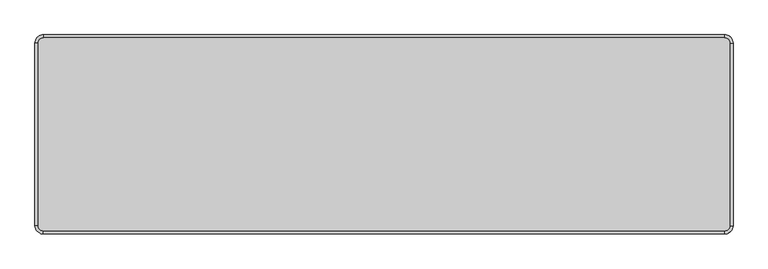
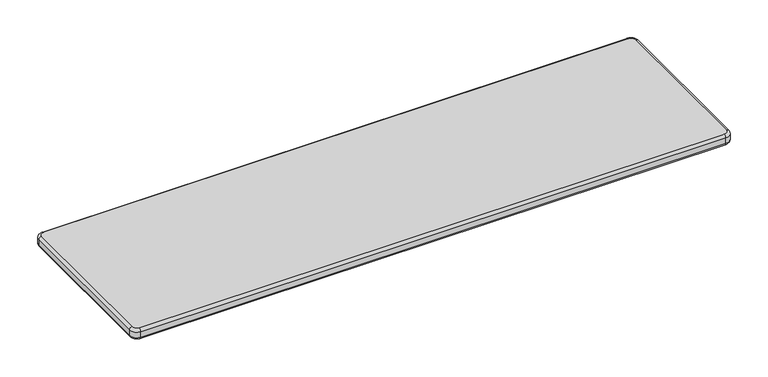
"""IFC4 building model written with IfcOpenShell, lengths in millimetres: furniture geometry, SSL-Childcraft_Outdoor-Bench : 2161361."""

import ifcopenshell
import ifcopenshell.guid

model = None  # the IFC model being written
_history = None  # IfcOwnerHistory: only IFC2X3 demands one
_inside = {}  # id of a spatial element -> (the spatial element, [elements in it])
_under = {}  # id of a project, library or spatial element -> (it, [spatial elements below it])
_declared = {}  # id of a project -> (the project, [libraries it declares])
_typed = {}  # id of a type object -> (the type object, [elements of that type])
_made_of = {}  # id of a material, layer set ... -> (it, [elements and type objects made of it])


def new_model(schema):
    """Start an empty IFC model of exactly this schema.

    Asked for "IFC4X3", IfcOpenShell would pick the latest addendum, in which some entities
    have other attributes; the version numbers below select the first issue.
    IFC2X3 requires an IfcOwnerHistory on every rooted entity: one is made here for all.
    """
    global model, _history
    if schema == "IFC4X3":
        model = ifcopenshell.file(schema_version=(4, 3, 0, 0))
    else:
        model = ifcopenshell.file(schema=schema)
    _inside.clear()
    _under.clear()
    _declared.clear()
    _typed.clear()
    _made_of.clear()
    _history = None
    if model.schema == "IFC2X3":
        org = make("IfcOrganization", Name="unknown")
        user = make(
            "IfcPersonAndOrganization",
            ThePerson=make("IfcPerson", FamilyName="unknown"),
            TheOrganization=org,
        )
        app = make(
            "IfcApplication",
            ApplicationDeveloper=org,
            Version="unknown",
            ApplicationFullName="unknown",
            ApplicationIdentifier="unknown",
        )
        _history = make(
            "IfcOwnerHistory",
            OwningUser=user,
            OwningApplication=app,
            ChangeAction="ADDED",
            CreationDate=0,
        )
    return model


def make(cls, **values):
    """One entity of the class cls with the attributes given. An attribute that is None is left unset."""
    return model.create_entity(
        cls, **{name: value for name, value in values.items() if value is not None}
    )


def rooted(cls, **values):
    """An entity with a GlobalId (a new one), such as an element, a storey or a relation."""
    return make(cls, GlobalId=ifcopenshell.guid.new(), OwnerHistory=_history, **values)


def si_unit(unit_type, name, prefix=None):
    """IfcSIUnit, for example si_unit("LENGTHUNIT", "METRE", prefix="MILLI")."""
    return make("IfcSIUnit", UnitType=unit_type, Prefix=prefix, Name=name)


def assignment(units):
    """IfcUnitAssignment: the units of a project."""
    return None if units is None else make("IfcUnitAssignment", Units=units)


def point(xyz):
    """IfcCartesianPoint."""
    return None if xyz is None else make("IfcCartesianPoint", Coordinates=xyz)


def direction(xyz):
    """IfcDirection."""
    return None if xyz is None else make("IfcDirection", DirectionRatios=xyz)


def frame(location, z_axis=None, x_axis=None):
    """IfcAxis2Placement3D, a coordinate frame: its origin and axes. An axis left out is left unset."""
    return make(
        "IfcAxis2Placement3D",
        Location=point(location),
        Axis=direction(z_axis),
        RefDirection=direction(x_axis),
    )


def origin():
    """The frame at (0, 0, 0) with its axes left unset."""
    return frame((0.0, 0.0, 0.0))


def place(relative_to, where):
    """IfcLocalPlacement: puts the frame where relative to a parent placement (None: the world)."""
    return make(
        "IfcLocalPlacement", PlacementRelTo=relative_to, RelativePlacement=where
    )


def context(
    kind, dimensions, precision=None, world=None, true_north=None, identifier=None
):
    """IfcGeometricRepresentationContext, for example the 3D "Model" context."""
    return make(
        "IfcGeometricRepresentationContext",
        ContextIdentifier=identifier,
        ContextType=kind,
        CoordinateSpaceDimension=dimensions,
        Precision=precision,
        WorldCoordinateSystem=world,
        TrueNorth=true_north,
    )


def project(units=None, contexts=None):
    """IfcProject with its units and contexts."""
    return rooted(
        "IfcProject",
        Name="project",
        RepresentationContexts=contexts,
        UnitsInContext=assignment(units),
    )


def spatial(cls, under=None, at=None, **own):
    """A site, building, storey or space (cls), placed at a placement, below another one or the project."""
    s = rooted(cls, ObjectPlacement=at, **own)
    if under is not None:
        _under.setdefault(under.id(), (under, []))[1].append(s)
    return s


def circle_curve(where, radius):
    """IfcCircle in the frame where."""
    return make("IfcCircle", Position=where, Radius=radius)


def ellipse_curve(where, semi_axis1, semi_axis2):
    """IfcEllipse in the frame where."""
    return make(
        "IfcEllipse", Position=where, SemiAxis1=semi_axis1, SemiAxis2=semi_axis2
    )


def trimmed(basis, trim1, trim2, sense, master):
    """IfcTrimmedCurve: the piece of a basis curve between two trims."""
    return make(
        "IfcTrimmedCurve",
        BasisCurve=basis,
        Trim1=trim1,
        Trim2=trim2,
        SenseAgreement=sense,
        MasterRepresentation=master,
    )


def shape(context_of_items, identifier, shape_type, items):
    """IfcShapeRepresentation: the items that make up one representation, for example the "Body"."""
    return make(
        "IfcShapeRepresentation",
        ContextOfItems=context_of_items,
        RepresentationIdentifier=identifier,
        RepresentationType=shape_type,
        Items=items,
    )


def source(mapping_origin, context_of_items, identifier, shape_type, items):
    """IfcRepresentationMap: a shape defined once, which mapped items show again and again."""
    return make(
        "IfcRepresentationMap",
        MappingOrigin=mapping_origin,
        MappedRepresentation=shape(context_of_items, identifier, shape_type, items),
    )


def transform(
    local_origin,
    x_axis=None,
    y_axis=None,
    z_axis=None,
    scale=None,
    scale2=None,
    scale3=None,
    uniform=True,
):
    """IfcCartesianTransformationOperator3D, or its non-uniform kind. x_axis, y_axis, z_axis: its Axis1, 2, 3."""
    if uniform:
        return make(
            "IfcCartesianTransformationOperator3D",
            Axis1=direction(x_axis),
            Axis2=direction(y_axis),
            LocalOrigin=point(local_origin),
            Scale=scale,
            Axis3=direction(z_axis),
        )
    return make(
        "IfcCartesianTransformationOperator3DnonUniform",
        Axis1=direction(x_axis),
        Axis2=direction(y_axis),
        LocalOrigin=point(local_origin),
        Scale=scale,
        Axis3=direction(z_axis),
        Scale2=scale2,
        Scale3=scale3,
    )


def mapped(mapping_source, mapping_target):
    """IfcMappedItem: shows the shape of a source again, moved by a transform."""
    return make(
        "IfcMappedItem", MappingSource=mapping_source, MappingTarget=mapping_target
    )


def made_of(thing, what):
    """Note that an element or type object is made of a material, layer set ...; save() writes the relation."""
    if what is not None:
        _made_of.setdefault(what.id(), (what, []))[1].append(thing)
    return thing


def element(
    cls,
    number,
    at=None,
    inside=None,
    cuts=None,
    type_object=None,
    material=None,
    context=None,
    identifier="Body",
    shape_type=None,
    held_by="IfcProductDefinitionShape",
    body=None,
    shapes=None,
    **own,
):
    """One element of the class cls, such as IfcWall. Its Tag is "e" and its number.

    at: its placement. inside: the storey or other place that contains it. cuts: it is an
    opening in that element (IfcRelVoidsElement). A single representation is given by context,
    identifier, shape_type and body (its items); several are given by shapes. held_by: the class
    of the entity that holds the representations. save() writes the other relations.
    """
    e = rooted(cls, Tag="e%d" % number, ObjectPlacement=at, **own)
    if body is not None:
        shapes = [shape(context, identifier, shape_type, body)]
    if shapes is not None:
        e.Representation = make(held_by, Representations=shapes)
    if inside is not None:
        _inside.setdefault(inside.id(), (inside, []))[1].append(e)
    if cuts is not None:
        rooted(
            "IfcRelVoidsElement", RelatingBuildingElement=cuts, RelatedOpeningElement=e
        )
    if type_object is not None:
        _typed.setdefault(type_object.id(), (type_object, []))[1].append(e)
    return made_of(e, material)


def aggregate(whole, parts):
    """IfcRelAggregates: a whole, such as a stair, and the parts it consists of."""
    return rooted("IfcRelAggregates", RelatingObject=whole, RelatedObjects=parts)


def save(model, path):
    """Write the relations noted so far, then the file.

    IfcRelAggregates (storeys below a building ...), IfcRelContainedInSpatialStructure (elements
    in a storey), IfcRelDefinesByType, IfcRelAssociatesMaterial and IfcRelDeclares: one each for
    every whole, place, type object, material and project.
    """
    for whole, parts in _under.values():
        aggregate(whole, parts)
    for where, things in _inside.values():
        rooted(
            "IfcRelContainedInSpatialStructure",
            RelatedElements=things,
            RelatingStructure=where,
        )
    for kind, things in _typed.values():
        rooted("IfcRelDefinesByType", RelatedObjects=things, RelatingType=kind)
    for what, things in _made_of.values():
        rooted("IfcRelAssociatesMaterial", RelatedObjects=things, RelatingMaterial=what)
    for by, libraries in _declared.values():
        rooted("IfcRelDeclares", RelatingContext=by, RelatedDefinitions=libraries)
    model.write(path)


def plane_surface(at):
    """IfcPlane: the flat surface through the origin of the frame at, square to its z axis."""
    return make("IfcPlane", Position=at)


def cylinder_surface(at, radius):
    """IfcCylindricalSurface: all points at the distance radius from the z axis of the frame at."""
    return make("IfcCylindricalSurface", Position=at, Radius=radius)


def revolved_surface(curve, axis_point, axis_direction):
    """IfcSurfaceOfRevolution: the curve turned about the line through axis_point along axis_direction."""
    return make(
        "IfcSurfaceOfRevolution",
        SweptCurve=make("IfcArbitraryOpenProfileDef", ProfileType="CURVE", Curve=curve),
        AxisPosition=make("IfcAxis1Placement", Location=point(axis_point), Axis=direction(axis_direction)),
    )


def advanced_brep(points, edges, surfaces, faces):
    """IfcAdvancedBrep: a solid bounded by faces that lie on surfaces and meet in shared edges.

    An edge is (start, end): straight between two places in points (the first is 0);
    or (start, end, curve); or (start, end, curve, False) where it runs against its curve.
    A face is (place in surfaces, loops), or (place, loops, False) where it looks against
    its surface's normal. A loop lists edges by number (the first is 1), with a minus sign
    where the edge is run from its end to its start. The first loop is the outer one.
    """
    corners = [point(p) for p in points]
    vertices = [make("IfcVertexPoint", VertexGeometry=c) for c in corners]
    made = []
    for start, end, *more in edges:
        made.append(
            make(
                "IfcEdgeCurve",
                EdgeStart=vertices[start],
                EdgeEnd=vertices[end],
                EdgeGeometry=more[0] if more else make("IfcPolyline", Points=[corners[start], corners[end]]),
                SameSense=more[1] if len(more) > 1 else True,
            )
        )
    hull = []
    for where, loops, *sense in faces:
        bounds = []
        for j, loop in enumerate(loops):
            ring = [make("IfcOrientedEdge", EdgeElement=made[abs(k) - 1], Orientation=k > 0) for k in loop]
            bounds.append(
                make(
                    "IfcFaceOuterBound" if j == 0 else "IfcFaceBound",
                    Bound=make("IfcEdgeLoop", EdgeList=ring),
                    Orientation=True,
                )
            )
        hull.append(make("IfcAdvancedFace", Bounds=bounds, FaceSurface=surfaces[where], SameSense=sense[0] if sense else True))
    return make("IfcAdvancedBrep", Outer=make("IfcClosedShell", CfsFaces=hull))


def furniture_33aa7544(model_context):
    return source(origin(), model_context, "Body", "AdvancedBrep", [
        advanced_brep(
        [(1066.8, -12.7, 300.4687617), (1054.1, 0.0, 300.4687617), (1054.1, -4.3312383, 304.8), (1062.4687617, -12.7, 304.8), (1066.8, -12.7, 290.115625), (1054.1, 0.0, 290.115625), (1062.434375, -12.7, 285.75), (1054.1, -4.365625, 285.75), (1062.4687617, -292.1, 304.8), (1066.8, -292.1, 300.4687617), (1066.8, -292.1, 290.115625), (1062.434375, -292.1, 285.75), (1054.1, -300.4687617, 304.8), (1054.1, -304.8, 300.4687617), (1054.1, -304.8, 290.115625), (1054.1, -300.434375, 285.75), (12.7, -300.4687617, 304.8), (12.7, -304.8, 300.4687617), (12.7, -304.8, 290.115625), (12.7, -300.434375, 285.75), (4.3312383, -292.1, 304.8), (0.0, -292.1, 300.4687617), (0.0, -292.1, 290.115625), (4.365625, -292.1, 285.75), (4.3312383, -12.7, 304.8), (0.0, -12.7, 300.4687617), (0.0, -12.7, 290.115625), (4.365625, -12.7, 285.75), (12.7, -4.3312383, 304.8), (12.7, 0.0, 300.4687617), (12.7, 0.0, 290.115625), (12.7, -4.365625, 285.75)],
        [
            (0, 1, circle_curve(frame((1054.1, -12.7, 300.4687617), z_axis=(0.0, 0.0, 1.0), x_axis=(0.0, 1.0, 0.0)), 12.7)),
            (1, 2, circle_curve(frame((1054.1, -4.3312383, 300.4687617), z_axis=(1.0, 0.0, 0.0), x_axis=(0.0, 1.0, 0.0)), 4.3312383)),
            (2, 3, circle_curve(frame((1054.1, -12.7, 304.8), z_axis=(0.0, 0.0, -1.0), x_axis=(0.0, 1.0, 0.0)), 8.3687617)),
            (3, 0, circle_curve(frame((1062.4687617, -12.7, 300.4687617), z_axis=(0.0, 1.0, 0.0), x_axis=(1.0, 0.0, 0.0)), 4.3312383)),
            (0, 4),
            (4, 5, circle_curve(frame((1054.1, -12.7, 290.115625), z_axis=(0.0, 0.0, 1.0), x_axis=(0.0, 1.0, 0.0)), 12.7)),
            (5, 1),
            (4, 6, circle_curve(frame((1062.434375, -12.7, 290.115625), z_axis=(0.0, 1.0, 0.0), x_axis=(1.0, 0.0, 0.0)), 4.365625)),
            (6, 7, circle_curve(frame((1054.1, -12.7, 285.75), z_axis=(0.0, 0.0, 1.0), x_axis=(0.0, 1.0, 0.0)), 8.334375)),
            (7, 5, circle_curve(frame((1054.1, -4.365625, 290.115625), z_axis=(1.0, 0.0, 0.0), x_axis=(0.0, 1.0, 0.0)), 4.365625)),
            (3, 8),
            (8, 9, circle_curve(frame((1062.4687617, -292.1, 300.4687617), z_axis=(0.0, 1.0, 0.0), x_axis=(1.0, 0.0, 0.0)), 4.3312383)),
            (9, 0),
            (9, 10),
            (10, 4),
            (10, 11, circle_curve(frame((1062.434375, -292.1, 290.115625), z_axis=(0.0, 1.0, 0.0), x_axis=(1.0, 0.0, 0.0)), 4.365625)),
            (11, 6),
            (8, 12, circle_curve(frame((1054.1, -292.1, 304.8), z_axis=(0.0, 0.0, -1.0), x_axis=(1.0, 0.0, 0.0)), 8.3687617)),
            (12, 13, circle_curve(frame((1054.1, -300.4687617, 300.4687617), z_axis=(1.0, 0.0, 0.0), x_axis=(0.0, -1.0, 0.0)), 4.3312383)),
            (13, 9, circle_curve(frame((1054.1, -292.1, 300.4687617), z_axis=(0.0, 0.0, 1.0), x_axis=(1.0, 0.0, 0.0)), 12.7)),
            (13, 14),
            (14, 10, circle_curve(frame((1054.1, -292.1, 290.115625), z_axis=(0.0, 0.0, 1.0), x_axis=(1.0, 0.0, 0.0)), 12.7)),
            (14, 15, circle_curve(frame((1054.1, -300.434375, 290.115625), z_axis=(1.0, 0.0, 0.0), x_axis=(0.0, -1.0, 0.0)), 4.365625)),
            (15, 11, circle_curve(frame((1054.1, -292.1, 285.75), z_axis=(0.0, 0.0, 1.0), x_axis=(1.0, 0.0, 0.0)), 8.334375)),
            (12, 16),
            (16, 17, circle_curve(frame((12.7, -300.4687617, 300.4687617), z_axis=(1.0, 0.0, 0.0), x_axis=(0.0, -1.0, 0.0)), 4.3312383)),
            (17, 13),
            (17, 18),
            (18, 14),
            (18, 19, circle_curve(frame((12.7, -300.434375, 290.115625), z_axis=(1.0, 0.0, 0.0), x_axis=(0.0, -1.0, 0.0)), 4.365625)),
            (19, 15),
            (16, 20, circle_curve(frame((12.7, -292.1, 304.8), z_axis=(0.0, 0.0, -1.0), x_axis=(0.0, -1.0, 0.0)), 8.3687617)),
            (20, 21, circle_curve(frame((4.3312383, -292.1, 300.4687617), z_axis=(0.0, -1.0, 0.0), x_axis=(-1.0, 0.0, 0.0)), 4.3312383)),
            (21, 17, circle_curve(frame((12.7, -292.1, 300.4687617), z_axis=(0.0, 0.0, 1.0), x_axis=(0.0, -1.0, 0.0)), 12.7)),
            (21, 22),
            (22, 18, circle_curve(frame((12.7, -292.1, 290.115625), z_axis=(0.0, 0.0, 1.0), x_axis=(0.0, -1.0, 0.0)), 12.7)),
            (22, 23, circle_curve(frame((4.365625, -292.1, 290.115625), z_axis=(0.0, -1.0, 0.0), x_axis=(-1.0, 0.0, 0.0)), 4.365625)),
            (23, 19, circle_curve(frame((12.7, -292.1, 285.75), z_axis=(0.0, 0.0, 1.0), x_axis=(0.0, -1.0, 0.0)), 8.334375)),
            (20, 24),
            (24, 25, circle_curve(frame((4.3312383, -12.7, 300.4687617), z_axis=(0.0, -1.0, 0.0), x_axis=(-1.0, 0.0, 0.0)), 4.3312383)),
            (25, 21),
            (25, 26),
            (26, 22),
            (26, 27, circle_curve(frame((4.365625, -12.7, 290.115625), z_axis=(0.0, -1.0, 0.0), x_axis=(-1.0, 0.0, 0.0)), 4.365625)),
            (27, 23),
            (24, 28, circle_curve(frame((12.7, -12.7, 304.8), z_axis=(0.0, 0.0, -1.0), x_axis=(-1.0, 0.0, 0.0)), 8.3687617)),
            (28, 29, circle_curve(frame((12.7, -4.3312383, 300.4687617), z_axis=(-1.0, 0.0, 0.0), x_axis=(0.0, 1.0, 0.0)), 4.3312383)),
            (29, 25, circle_curve(frame((12.7, -12.7, 300.4687617), z_axis=(0.0, 0.0, 1.0), x_axis=(-1.0, 0.0, 0.0)), 12.7)),
            (29, 30),
            (30, 26, circle_curve(frame((12.7, -12.7, 290.115625), z_axis=(0.0, 0.0, 1.0), x_axis=(-1.0, 0.0, 0.0)), 12.7)),
            (30, 31, circle_curve(frame((12.7, -4.365625, 290.115625), z_axis=(-1.0, 0.0, 0.0), x_axis=(0.0, 1.0, 0.0)), 4.365625)),
            (31, 27, circle_curve(frame((12.7, -12.7, 285.75), z_axis=(0.0, 0.0, 1.0), x_axis=(-1.0, 0.0, 0.0)), 8.334375)),
            (2, 28),
            (1, 29),
            (5, 30),
            (7, 31),
        ],
        [
            revolved_surface(trimmed(ellipse_curve(frame((1054.1, -4.3312383, 300.4687617), z_axis=(-1.0, 0.0, 0.0), x_axis=(0.0, 1.0, 0.0)), 4.3312383, 4.3312383), [point((1054.1, -4.3312383, 304.8))], [point((1054.1, 0.0, 300.4687617))], True, "CARTESIAN"), (1054.1, -12.7, 0.0), (0.0, 0.0, -1.0)),
            cylinder_surface(frame((1054.1, -12.7, 0.0), z_axis=(0.0, 0.0, -1.0), x_axis=(0.0, 1.0, 0.0)), 12.7),
            revolved_surface(trimmed(ellipse_curve(frame((1054.1, -4.365625, 290.115625), z_axis=(-1.0, 0.0, 0.0), x_axis=(0.0, 1.0, 0.0)), 4.365625, 4.365625), [point((1054.1, 0.0, 290.115625))], [point((1054.1, -4.365625, 285.75))], True, "CARTESIAN"), (1054.1, -12.7, 0.0), (0.0, 0.0, -1.0)),
            cylinder_surface(frame((1062.4687617, -12.7, 300.4687617), z_axis=(0.0, 1.0, 0.0), x_axis=(1.0, 0.0, 0.0)), 4.3312383),
            plane_surface(frame((1066.8, -12.7, 300.4687617), z_axis=(1.0, 0.0, 0.0), x_axis=(0.0, -1.0, 0.0))),
            cylinder_surface(frame((1062.434375, -12.7, 290.115625), z_axis=(0.0, 1.0, 0.0), x_axis=(1.0, 0.0, 0.0)), 4.365625),
            revolved_surface(trimmed(ellipse_curve(frame((1062.4687617, -292.1, 300.4687617), z_axis=(0.0, 1.0, 0.0), x_axis=(1.0, 0.0, 0.0)), 4.3312383, 4.3312383), [point((1062.4687617, -292.1, 304.8))], [point((1066.8, -292.1, 300.4687617))], True, "CARTESIAN"), (1054.1, -292.1, 0.0), (0.0, 0.0, -1.0)),
            cylinder_surface(frame((1054.1, -292.1, 0.0), z_axis=(0.0, 0.0, -1.0), x_axis=(1.0, 0.0, 0.0)), 12.7),
            revolved_surface(trimmed(ellipse_curve(frame((1062.434375, -292.1, 290.115625), z_axis=(0.0, 1.0, 0.0), x_axis=(1.0, 0.0, 0.0)), 4.365625, 4.365625), [point((1066.8, -292.1, 290.115625))], [point((1062.434375, -292.1, 285.75))], True, "CARTESIAN"), (1054.1, -292.1, 0.0), (0.0, 0.0, -1.0)),
            cylinder_surface(frame((1054.1, -300.4687617, 300.4687617), z_axis=(1.0, 0.0, 0.0), x_axis=(0.0, -1.0, 0.0)), 4.3312383),
            plane_surface(frame((1054.1, -304.8, 300.4687617), z_axis=(0.0, -1.0, 0.0), x_axis=(-1.0, 0.0, 0.0))),
            cylinder_surface(frame((1054.1, -300.434375, 290.115625), z_axis=(1.0, 0.0, 0.0), x_axis=(0.0, -1.0, 0.0)), 4.365625),
            revolved_surface(trimmed(ellipse_curve(frame((12.7, -300.4687617, 300.4687617), z_axis=(1.0, 0.0, 0.0), x_axis=(0.0, -1.0, 0.0)), 4.3312383, 4.3312383), [point((12.7, -300.4687617, 304.8))], [point((12.7, -304.8, 300.4687617))], True, "CARTESIAN"), (12.7, -292.1, 0.0), (0.0, 0.0, -1.0)),
            cylinder_surface(frame((12.7, -292.1, 0.0), z_axis=(0.0, 0.0, -1.0), x_axis=(0.0, -1.0, 0.0)), 12.7),
            revolved_surface(trimmed(ellipse_curve(frame((12.7, -300.434375, 290.115625), z_axis=(1.0, 0.0, 0.0), x_axis=(0.0, -1.0, 0.0)), 4.365625, 4.365625), [point((12.7, -304.8, 290.115625))], [point((12.7, -300.434375, 285.75))], True, "CARTESIAN"), (12.7, -292.1, 0.0), (0.0, 0.0, -1.0)),
            cylinder_surface(frame((4.3312383, -292.1, 300.4687617), z_axis=(0.0, -1.0, 0.0), x_axis=(-1.0, 0.0, 0.0)), 4.3312383),
            plane_surface(frame((0.0, -292.1, 300.4687617), z_axis=(-1.0, 0.0, 0.0), x_axis=(0.0, 1.0, 0.0))),
            cylinder_surface(frame((4.365625, -292.1, 290.115625), z_axis=(0.0, -1.0, 0.0), x_axis=(-1.0, 0.0, 0.0)), 4.365625),
            revolved_surface(trimmed(ellipse_curve(frame((4.3312383, -12.7, 300.4687617), z_axis=(0.0, -1.0, 0.0), x_axis=(-1.0, 0.0, 0.0)), 4.3312383, 4.3312383), [point((4.3312383, -12.7, 304.8))], [point((0.0, -12.7, 300.4687617))], True, "CARTESIAN"), (12.7, -12.7, 0.0), (0.0, 0.0, -1.0)),
            cylinder_surface(frame((12.7, -12.7, 0.0), z_axis=(0.0, 0.0, -1.0), x_axis=(-1.0, 0.0, 0.0)), 12.7),
            revolved_surface(trimmed(ellipse_curve(frame((4.365625, -12.7, 290.115625), z_axis=(0.0, -1.0, 0.0), x_axis=(-1.0, 0.0, 0.0)), 4.365625, 4.365625), [point((0.0, -12.7, 290.115625))], [point((4.365625, -12.7, 285.75))], True, "CARTESIAN"), (12.7, -12.7, 0.0), (0.0, 0.0, -1.0)),
            plane_surface(frame((12.7, -5.55625, 304.8), z_axis=(0.0, 0.0, 1.0), x_axis=(1.0, 0.0, 0.0))),
            cylinder_surface(frame((12.7, -4.3312383, 300.4687617), z_axis=(-1.0, 0.0, 0.0), x_axis=(0.0, 1.0, 0.0)), 4.3312383),
            plane_surface(frame((12.7, 0.0, 300.4687617), z_axis=(0.0, 1.0, 0.0), x_axis=(1.0, 0.0, 0.0))),
            cylinder_surface(frame((12.7, -4.365625, 290.115625), z_axis=(-1.0, 0.0, 0.0), x_axis=(0.0, 1.0, 0.0)), 4.365625),
            plane_surface(frame((12.7, -4.365625, 285.75), z_axis=(0.0, 0.0, -1.0), x_axis=(1.0, 0.0, 0.0))),
        ],
        [
            (0, [[1, 2, 3, 4]]),
            (1, [[-1, 5, 6, 7]]),
            (2, [[-6, 8, 9, 10]]),
            (3, [[-4, 11, 12, 13]]),
            (4, [[-5, -13, 14, 15]]),
            (5, [[-8, -15, 16, 17]]),
            (6, [[-12, 18, 19, 20]]),
            (7, [[-14, -20, 21, 22]]),
            (8, [[-16, -22, 23, 24]]),
            (9, [[-19, 25, 26, 27]]),
            (10, [[-21, -27, 28, 29]]),
            (11, [[-23, -29, 30, 31]]),
            (12, [[-26, 32, 33, 34]]),
            (13, [[-28, -34, 35, 36]]),
            (14, [[-30, -36, 37, 38]]),
            (15, [[-33, 39, 40, 41]]),
            (16, [[-35, -41, 42, 43]]),
            (17, [[-37, -43, 44, 45]]),
            (18, [[-40, 46, 47, 48]]),
            (19, [[-42, -48, 49, 50]]),
            (20, [[-44, -50, 51, 52]]),
            (21, [[-3, 53, -46, -39, -32, -25, -18, -11]]),
            (22, [[-2, 54, -47, -53]]),
            (23, [[-7, 55, -49, -54]]),
            (24, [[-10, 56, -51, -55]]),
            (25, [[-9, -17, -24, -31, -38, -45, -52, -56]]),
        ],
    ),
    ])


if __name__ == "__main__":
    model = new_model("IFC4")
    model_context = context("Model", 3, world=origin())
    ifc_project = project(units=[si_unit("LENGTHUNIT", "METRE", prefix="MILLI")], contexts=[model_context])
    site = spatial("IfcSite", under=ifc_project)
    building = spatial("IfcBuilding", under=site)
    placement = place(None, origin())
    furniture_shape = furniture_33aa7544(model_context)
    element("IfcFurniture", 1, ObjectType="SSL-Childcraft_Outdoor-Bench : 2161361", at=placement, inside=building, context=model_context, shape_type="MappedRepresentation", body=[
        mapped(furniture_shape, transform((0.0, 0.0, 0.0), x_axis=(1.0, 0.0, 0.0), y_axis=(0.0, 1.0, 0.0), z_axis=(0.0, 0.0, 1.0))),
    ])
    save(model, "model.ifc")
